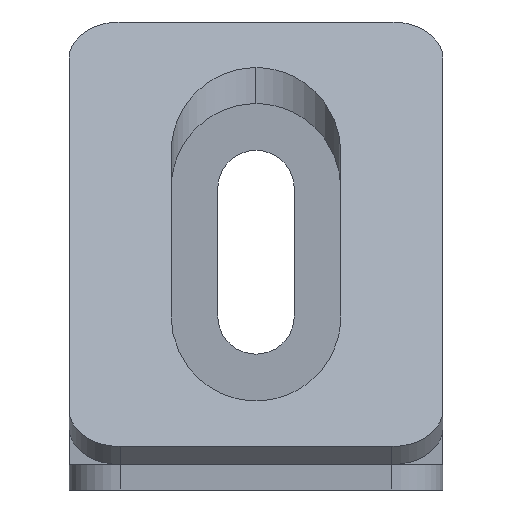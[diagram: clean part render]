
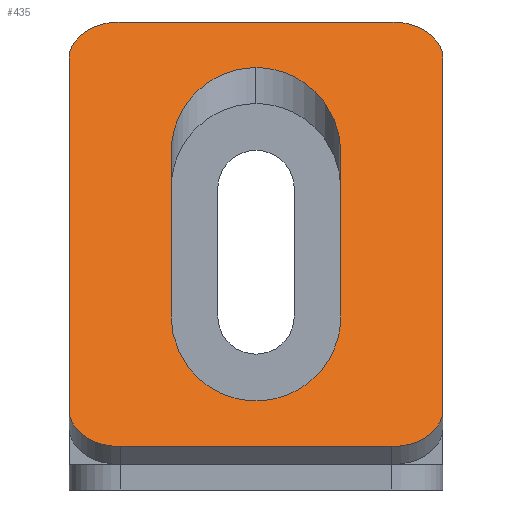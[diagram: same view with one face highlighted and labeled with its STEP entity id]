
A CAD part, front view. The second image highlights one B-rep face of the part: STEP entity #435.
In plain terms, the highlighted planar face has unit normal (0, -0.707, 0.707) as drawn and (0, 0, 1) by its records, which use the part's own axes.
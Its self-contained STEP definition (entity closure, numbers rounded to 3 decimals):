
#1 = LINE ( 'NONE', #871, #1000 ) ;
#11 = CARTESIAN_POINT ( 'NONE',  ( -47.388, 11.398, 3. ) ) ;
#12 = CARTESIAN_POINT ( 'NONE',  ( -47.388, 38.611, 3. ) ) ;
#24 = DIRECTION ( 'NONE',  ( 0., 0., 1. ) ) ;
#26 = ORIENTED_EDGE ( 'NONE', *, *, #870, .T. ) ;
#28 = FACE_BOUND ( 'NONE', #930, .T. ) ;
#29 = CARTESIAN_POINT ( 'NONE',  ( -37.388, 52.753, 3. ) ) ;
#44 = VERTEX_POINT ( 'NONE', #11 ) ;
#72 =( BOUNDED_CURVE ( )  B_SPLINE_CURVE ( 3, ( #485, #234, #149, #699 ),
 .UNSPECIFIED., .F., .F. ) 
 B_SPLINE_CURVE_WITH_KNOTS ( ( 4, 4 ),
 ( 1.571, 4.712 ),
 .UNSPECIFIED. ) 
 CURVE ( )  GEOMETRIC_REPRESENTATION_ITEM ( )  RATIONAL_B_SPLINE_CURVE ( ( 1., 0.333, 0.333, 1. ) ) 
 REPRESENTATION_ITEM ( '' )  );
#73 = DIRECTION ( 'NONE',  ( -1., 0., 0. ) ) ;
#74 = VECTOR ( 'NONE', #139, 1000. ) ;
#77 = ORIENTED_EDGE ( 'NONE', *, *, #900, .F. ) ;
#83 = EDGE_CURVE ( 'NONE', #607, #727, #452, .T. ) ;
#104 = EDGE_CURVE ( 'NONE', #571, #626, #508, .T. ) ;
#107 = LINE ( 'NONE', #999, #74 ) ;
#108 = CARTESIAN_POINT ( 'NONE',  ( -27.388, 46.895, 3. ) ) ;
#139 = DIRECTION ( 'NONE',  ( 1., 0., 0. ) ) ;
#140 = EDGE_CURVE ( 'NONE', #626, #607, #270, .T. ) ;
#149 = CARTESIAN_POINT ( 'NONE',  ( -27.388, -16.886, 3. ) ) ;
#171 = ORIENTED_EDGE ( 'NONE', *, *, #274, .F. ) ;
#172 = CARTESIAN_POINT ( 'NONE',  ( -59.388, -4.351, 3. ) ) ;
#202 = EDGE_CURVE ( 'NONE', #854, #874, #303, .T. ) ;
#220 = ORIENTED_EDGE ( 'NONE', *, *, #479, .T. ) ;
#226 = DIRECTION ( 'NONE',  ( 0., -1., 0. ) ) ;
#228 = EDGE_CURVE ( 'NONE', #685, #604, #609, .T. ) ;
#231 = CARTESIAN_POINT ( 'NONE',  ( -47.388, -4.351, 3. ) ) ;
#232 = DIRECTION ( 'NONE',  ( 0., 1., 0. ) ) ;
#234 = CARTESIAN_POINT ( 'NONE',  ( -47.388, -16.886, 3. ) ) ;
#247 = CARTESIAN_POINT ( 'NONE',  ( -21.388, -4.351, 3. ) ) ;
#255 = CARTESIAN_POINT ( 'NONE',  ( -15.388, -4.351, 3. ) ) ;
#261 = CARTESIAN_POINT ( 'NONE',  ( -15.388, 54.359, 3. ) ) ;
#270 =( BOUNDED_CURVE ( )  B_SPLINE_CURVE ( 3, ( #592, #108, #819, #908 ),
 .UNSPECIFIED., .F., .F. ) 
 B_SPLINE_CURVE_WITH_KNOTS ( ( 4, 4 ),
 ( 1.571, 3.142 ),
 .UNSPECIFIED. ) 
 CURVE ( )  GEOMETRIC_REPRESENTATION_ITEM ( )  RATIONAL_B_SPLINE_CURVE ( ( 1., 0.805, 0.805, 1. ) ) 
 REPRESENTATION_ITEM ( '' )  );
#274 = EDGE_CURVE ( 'NONE', #44, #571, #72, .T. ) ;
#291 = ORIENTED_EDGE ( 'NONE', *, *, #83, .F. ) ;
#293 = VECTOR ( 'NONE', #232, 1000. ) ;
#297 = ORIENTED_EDGE ( 'NONE', *, *, #140, .F. ) ;
#303 = CIRCLE ( 'NONE', #470, 6. ) ;
#320 = PLANE ( 'NONE',  #857 ) ;
#325 = VECTOR ( 'NONE', #498, 1000. ) ;
#327 = DIRECTION ( 'NONE',  ( 0., 0., 1. ) ) ;
#331 = DIRECTION ( 'NONE',  ( 1., 0., 0. ) ) ;
#346 = ORIENTED_EDGE ( 'NONE', *, *, #202, .T. ) ;
#357 = LINE ( 'NONE', #231, #522 ) ;
#358 = CARTESIAN_POINT ( 'NONE',  ( -47.388, 46.895, 3. ) ) ;
#370 = CARTESIAN_POINT ( 'NONE',  ( -37.388, 52.753, 3. ) ) ;
#375 = CARTESIAN_POINT ( 'NONE',  ( -21.388, -10.351, 3. ) ) ;
#385 = EDGE_LOOP ( 'NONE', ( #850, #674, #346, #220, #782, #26, #428, #720 ) ) ;
#393 = CARTESIAN_POINT ( 'NONE',  ( -21.388, 54.359, 3. ) ) ;
#409 = DIRECTION ( 'NONE',  ( 1., 0., 0. ) ) ;
#421 = CARTESIAN_POINT ( 'NONE',  ( -21.388, 60.359, 3. ) ) ;
#428 = ORIENTED_EDGE ( 'NONE', *, *, #228, .T. ) ;
#434 = EDGE_CURVE ( 'NONE', #662, #825, #838, .T. ) ;
#435 = ADVANCED_FACE ( 'NONE', ( #28, #436 ), #320, .T. ) ;
#436 = FACE_OUTER_BOUND ( 'NONE', #385, .T. ) ;
#450 = VERTEX_POINT ( 'NONE', #948 ) ;
#452 =( BOUNDED_CURVE ( )  B_SPLINE_CURVE ( 3, ( #29, #820, #358, #932 ),
 .UNSPECIFIED., .F., .F. ) 
 B_SPLINE_CURVE_WITH_KNOTS ( ( 4, 4 ),
 ( 3.142, 4.712 ),
 .UNSPECIFIED. ) 
 CURVE ( )  GEOMETRIC_REPRESENTATION_ITEM ( )  RATIONAL_B_SPLINE_CURVE ( ( 1., 0.805, 0.805, 1. ) ) 
 REPRESENTATION_ITEM ( '' )  );
#470 = AXIS2_PLACEMENT_3D ( 'NONE', #393, #936, #472 ) ;
#472 = DIRECTION ( 'NONE',  ( -1., 0., 0. ) ) ;
#479 = EDGE_CURVE ( 'NONE', #874, #450, #1, .T. ) ;
#485 = CARTESIAN_POINT ( 'NONE',  ( -47.388, 11.398, 3. ) ) ;
#498 = DIRECTION ( 'NONE',  ( 0., 1., 0. ) ) ;
#508 = LINE ( 'NONE', #621, #293 ) ;
#513 = CARTESIAN_POINT ( 'NONE',  ( -53.388, 54.359, 3. ) ) ;
#522 = VECTOR ( 'NONE', #697, 1000. ) ;
#541 = LINE ( 'NONE', #879, #941 ) ;
#571 = VERTEX_POINT ( 'NONE', #651 ) ;
#584 = AXIS2_PLACEMENT_3D ( 'NONE', #794, #327, #863 ) ;
#591 = DIRECTION ( 'NONE',  ( 1., 0., 0. ) ) ;
#592 = CARTESIAN_POINT ( 'NONE',  ( -27.388, 38.611, 3. ) ) ;
#604 = VERTEX_POINT ( 'NONE', #831 ) ;
#607 = VERTEX_POINT ( 'NONE', #370 ) ;
#609 = CIRCLE ( 'NONE', #584, 6. ) ;
#621 = CARTESIAN_POINT ( 'NONE',  ( -27.388, -4.351, 3. ) ) ;
#626 = VERTEX_POINT ( 'NONE', #681 ) ;
#647 = CARTESIAN_POINT ( 'NONE',  ( -15.388, 54.359, 3. ) ) ;
#651 = CARTESIAN_POINT ( 'NONE',  ( -27.388, 11.398, 3. ) ) ;
#655 = AXIS2_PLACEMENT_3D ( 'NONE', #247, #798, #331 ) ;
#662 = VERTEX_POINT ( 'NONE', #375 ) ;
#667 = EDGE_CURVE ( 'NONE', #450, #828, #905, .T. ) ;
#674 = ORIENTED_EDGE ( 'NONE', *, *, #866, .T. ) ;
#681 = CARTESIAN_POINT ( 'NONE',  ( -27.388, 38.611, 3. ) ) ;
#685 = VERTEX_POINT ( 'NONE', #172 ) ;
#693 = AXIS2_PLACEMENT_3D ( 'NONE', #513, #24, #591 ) ;
#697 = DIRECTION ( 'NONE',  ( 0., -1., 0. ) ) ;
#699 = CARTESIAN_POINT ( 'NONE',  ( -27.388, 11.398, 3. ) ) ;
#719 = CARTESIAN_POINT ( 'NONE',  ( -21.388, -4.351, 3. ) ) ;
#720 = ORIENTED_EDGE ( 'NONE', *, *, #1013, .T. ) ;
#727 = VERTEX_POINT ( 'NONE', #12 ) ;
#768 = LINE ( 'NONE', #647, #325 ) ;
#782 = ORIENTED_EDGE ( 'NONE', *, *, #667, .T. ) ;
#794 = CARTESIAN_POINT ( 'NONE',  ( -53.388, -4.351, 3. ) ) ;
#798 = DIRECTION ( 'NONE',  ( 0., 0., 1. ) ) ;
#819 = CARTESIAN_POINT ( 'NONE',  ( -31.53, 52.753, 3. ) ) ;
#820 = CARTESIAN_POINT ( 'NONE',  ( -43.246, 52.753, 3. ) ) ;
#825 = VERTEX_POINT ( 'NONE', #255 ) ;
#828 = VERTEX_POINT ( 'NONE', #876 ) ;
#831 = CARTESIAN_POINT ( 'NONE',  ( -53.388, -10.351, 3. ) ) ;
#838 = CIRCLE ( 'NONE', #655, 6. ) ;
#849 = ORIENTED_EDGE ( 'NONE', *, *, #104, .F. ) ;
#850 = ORIENTED_EDGE ( 'NONE', *, *, #434, .T. ) ;
#854 = VERTEX_POINT ( 'NONE', #261 ) ;
#857 = AXIS2_PLACEMENT_3D ( 'NONE', #719, #868, #409 ) ;
#863 = DIRECTION ( 'NONE',  ( 1., 0., 0. ) ) ;
#866 = EDGE_CURVE ( 'NONE', #825, #854, #768, .T. ) ;
#868 = DIRECTION ( 'NONE',  ( 0., 0., 1. ) ) ;
#870 = EDGE_CURVE ( 'NONE', #828, #685, #541, .T. ) ;
#871 = CARTESIAN_POINT ( 'NONE',  ( -53.388, 60.359, 3. ) ) ;
#874 = VERTEX_POINT ( 'NONE', #421 ) ;
#876 = CARTESIAN_POINT ( 'NONE',  ( -59.388, 54.359, 3. ) ) ;
#879 = CARTESIAN_POINT ( 'NONE',  ( -59.388, 54.359, 3. ) ) ;
#900 = EDGE_CURVE ( 'NONE', #727, #44, #357, .T. ) ;
#905 = CIRCLE ( 'NONE', #693, 6. ) ;
#908 = CARTESIAN_POINT ( 'NONE',  ( -37.388, 52.753, 3. ) ) ;
#930 = EDGE_LOOP ( 'NONE', ( #849, #171, #77, #291, #297 ) ) ;
#932 = CARTESIAN_POINT ( 'NONE',  ( -47.388, 38.611, 3. ) ) ;
#936 = DIRECTION ( 'NONE',  ( 0., 0., 1. ) ) ;
#941 = VECTOR ( 'NONE', #226, 1000. ) ;
#948 = CARTESIAN_POINT ( 'NONE',  ( -53.388, 60.359, 3. ) ) ;
#999 = CARTESIAN_POINT ( 'NONE',  ( -53.388, -10.351, 3. ) ) ;
#1000 = VECTOR ( 'NONE', #73, 1000. ) ;
#1013 = EDGE_CURVE ( 'NONE', #604, #662, #107, .T. ) ;
